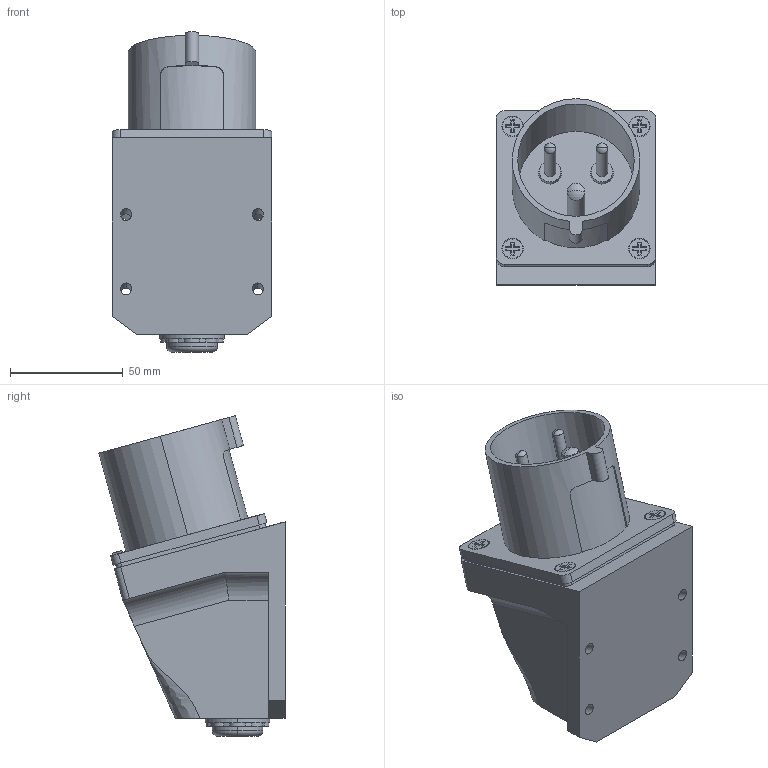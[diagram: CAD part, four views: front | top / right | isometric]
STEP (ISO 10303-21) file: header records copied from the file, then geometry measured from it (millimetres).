
FILE_DESCRIPTION (( 'STEP AP203' ), '1' );
FILE_NAME ('TLM32432.STEP', '2018-04-05T20:51:09', ( '' ), ( '' ), 'SwSTEP 2.0', 'SolidWorks 2012', '' );
FILE_SCHEMA (( 'CONFIG_CONTROL_DESIGN' ));
Length unit declared in the file: millimetre
Products named in the file (5): TLM32432; TLL32432; METALTEX 18,98; TL
Assembly tree (4 placements, depth 3):
  TLM32432
    TL
    TLL32432
      TLL32432
      METALTEX 18,98
Bounding box: 71 x 82.62 x 142.28 mm (x, y, z)
Volume: 335325.7 mm3; surface area: 74501 mm2
Topology: 9 solids, 9 shells, 537 faces, 1354 edges, 892 vertices
Faces by surface type: plane 319, cylinder 180, cone 24, sphere 6, torus 4, bspline 4
Entity records: 17879 total; most frequent: CARTESIAN_POINT 4161, DIRECTION 2757, ORIENTED_EDGE 2704, EDGE_CURVE 1352, AXIS2_PLACEMENT_3D 926, VECTOR 905, LINE 905, VERTEX_POINT 892
